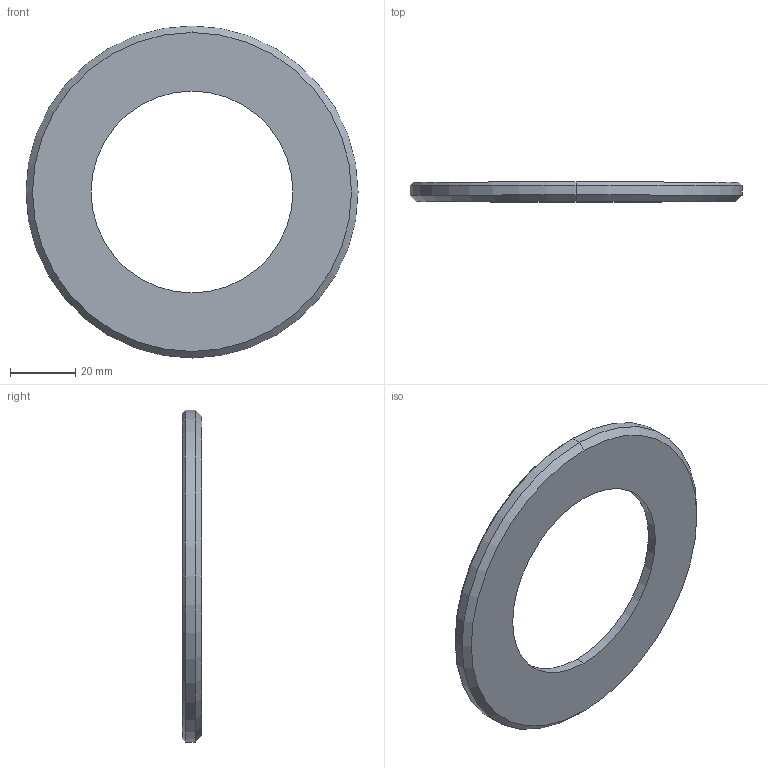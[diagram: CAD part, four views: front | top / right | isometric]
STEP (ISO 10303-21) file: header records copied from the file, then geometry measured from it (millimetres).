
FILE_DESCRIPTION (( 'STEP AP214' ), '1' );
FILE_NAME ('Outer Ring NO-TEXT.STEP', '2023-02-16T06:02:56', ( '' ), ( '' ), 'SwSTEP 2.0', 'SolidWorks 2021', '' );
FILE_SCHEMA (( 'AUTOMOTIVE_DESIGN' ));
Length unit declared in the file: millimetre
Products named in the file (1): Outer Ring NO-TEXT
Bounding box: 102 x 6 x 102 mm (x, y, z)
Volume: 13521.9 mm3; surface area: 15076.5 mm2
Topology: 1 solids, 1 shells, 122 faces, 301 edges, 199 vertices
Faces by surface type: cylinder 58, plane 56, cone 8
Entity records: 3696 total; most frequent: DIRECTION 668, CARTESIAN_POINT 641, ORIENTED_EDGE 602, EDGE_CURVE 301, AXIS2_PLACEMENT_3D 250, VERTEX_POINT 199, LINE 168, VECTOR 168
